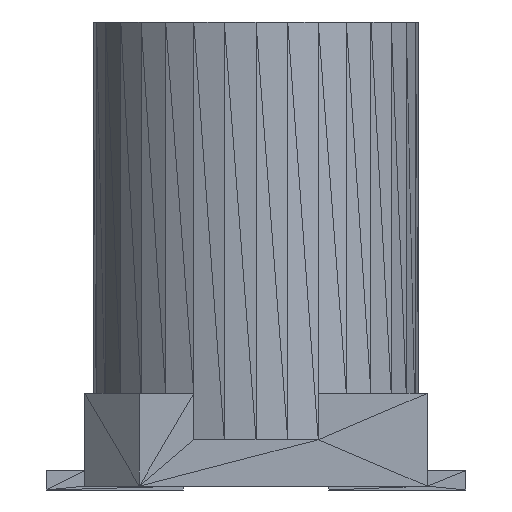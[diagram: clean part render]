
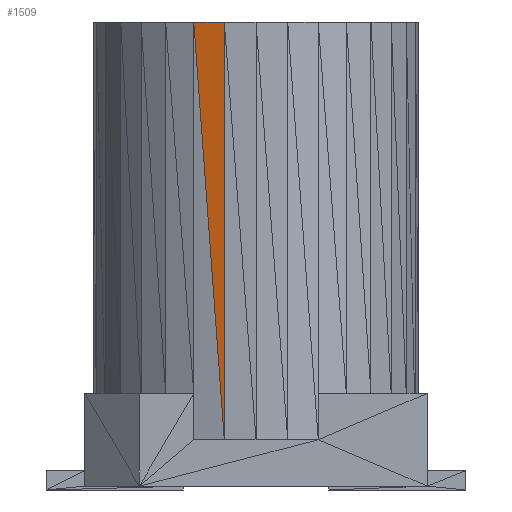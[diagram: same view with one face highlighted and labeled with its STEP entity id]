
A CAD part, front view. The second image highlights one B-rep face of the part: STEP entity #1509.
In plain terms, the highlighted planar face has unit normal (-0.29, -0.957, 0).
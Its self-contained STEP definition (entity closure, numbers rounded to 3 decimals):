
#1509=ADVANCED_FACE('',(#1510),#1536,.F.);
#1510=FACE_OUTER_BOUND('',#1511,.T.);
#1511=EDGE_LOOP('',(#1512,#1514,#1516));
#1512=ORIENTED_EDGE('',*,*,#1513,.T.);
#1513=EDGE_CURVE('',#1518,#1520,#1522,.T.);
#1514=ORIENTED_EDGE('',*,*,#1515,.T.);
#1515=EDGE_CURVE('',#1520,#1526,#1528,.T.);
#1516=ORIENTED_EDGE('',*,*,#1517,.T.);
#1517=EDGE_CURVE('',#1526,#1518,#1532,.T.);
#1518=VERTEX_POINT('',#1519);
#1519=CARTESIAN_POINT('',(-0.817,-1.973,6.147));
#1520=VERTEX_POINT('',#1521);
#1521=CARTESIAN_POINT('',(-0.417,-2.094,6.147));
#1522=LINE('',#1523,#1524);
#1523=CARTESIAN_POINT('',(-0.817,-1.973,6.147));
#1524=VECTOR('',#1525,1.0);
#1525=DIRECTION('',(-0.957,0.29,0.0));
#1526=VERTEX_POINT('',#1527);
#1527=CARTESIAN_POINT('',(-0.417,-2.094,0.661));
#1528=LINE('',#1529,#1530);
#1529=CARTESIAN_POINT('',(-0.417,-2.094,6.147));
#1530=VECTOR('',#1531,1.0);
#1531=DIRECTION('',(0.0,0.0,1.0));
#1532=LINE('',#1533,#1534);
#1533=CARTESIAN_POINT('',(-0.417,-2.094,0.661));
#1534=VECTOR('',#1535,1.0);
#1535=DIRECTION('',(0.073,-0.022,-0.997));
#1536=PLANE('',#1537);
#1537=AXIS2_PLACEMENT_3D('',#1538,#1539,#1540);
#1538=CARTESIAN_POINT('',(-0.417,-2.094,6.147));
#1539=DIRECTION('',(0.29,0.957,0.0));
#1540=DIRECTION('',(-0.073,0.022,0.997));
